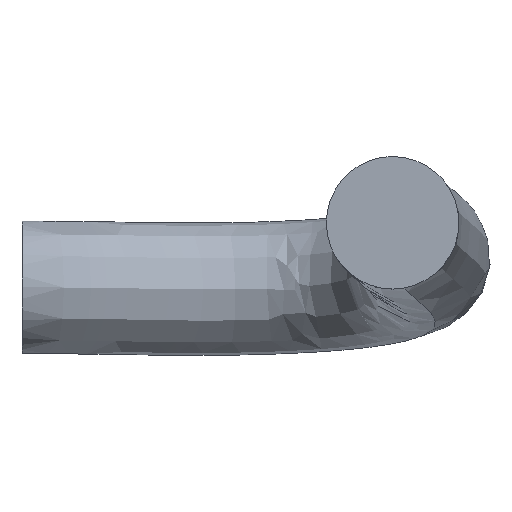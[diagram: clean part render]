
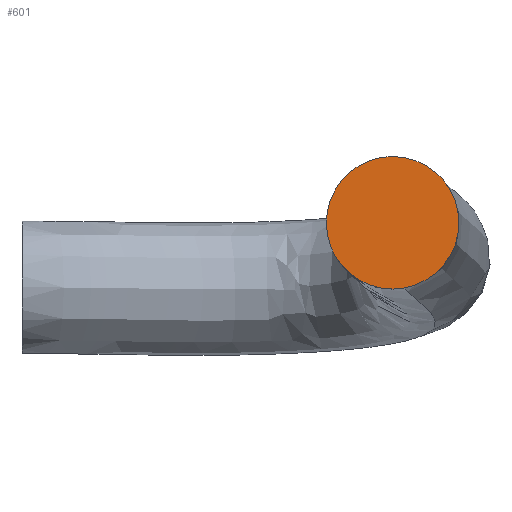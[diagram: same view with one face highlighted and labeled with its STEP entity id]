
A CAD part, front view. The second image highlights one B-rep face of the part: STEP entity #601.
In plain terms, the highlighted planar face has unit normal (0, -1, 0).
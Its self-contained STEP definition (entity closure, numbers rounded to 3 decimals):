
#19 = AXIS2_PLACEMENT_3D ( 'NONE', #287, #1215, #175 ) ;
#84 = FACE_OUTER_BOUND ( 'NONE', #326, .T. ) ;
#175 = DIRECTION ( 'NONE',  ( 0.18, 0., -0.984 ) ) ;
#185 = CARTESIAN_POINT ( 'NONE',  ( 1587.279, -83.052, 1843.886 ) ) ;
#194 = DIRECTION ( 'NONE',  ( 0.18, 0., -0.984 ) ) ;
#287 = CARTESIAN_POINT ( 'NONE',  ( 1587.279, -83.052, 1843.886 ) ) ;
#326 = EDGE_LOOP ( 'NONE', ( #825, #420 ) ) ;
#334 = AXIS2_PLACEMENT_3D ( 'NONE', #185, #1115, #982 ) ;
#398 = CARTESIAN_POINT ( 'NONE',  ( 1587.279, -83.052, 1843.886 ) ) ;
#417 = EDGE_CURVE ( 'NONE', #1128, #637, #912, .T. ) ;
#420 = ORIENTED_EDGE ( 'NONE', *, *, #1174, .T. ) ;
#488 = CARTESIAN_POINT ( 'NONE',  ( 1579.199, -83.052, 1888.154 ) ) ;
#601 = ADVANCED_FACE ( 'NONE', ( #84 ), #901, .T. ) ;
#637 = VERTEX_POINT ( 'NONE', #488 ) ;
#746 = CIRCLE ( 'NONE', #334, 45. ) ;
#786 = AXIS2_PLACEMENT_3D ( 'NONE', #398, #985, #194 ) ;
#825 = ORIENTED_EDGE ( 'NONE', *, *, #417, .T. ) ;
#901 = PLANE ( 'NONE',  #19 ) ;
#912 = CIRCLE ( 'NONE', #786, 45. ) ;
#982 = DIRECTION ( 'NONE',  ( 0.18, 0., -0.984 ) ) ;
#985 = DIRECTION ( 'NONE',  ( 0., -1., 0. ) ) ;
#1115 = DIRECTION ( 'NONE',  ( 0., -1., 0. ) ) ;
#1128 = VERTEX_POINT ( 'NONE', #1190 ) ;
#1174 = EDGE_CURVE ( 'NONE', #637, #1128, #746, .T. ) ;
#1190 = CARTESIAN_POINT ( 'NONE',  ( 1595.36, -83.052, 1799.617 ) ) ;
#1215 = DIRECTION ( 'NONE',  ( 0., -1., 0. ) ) ;
